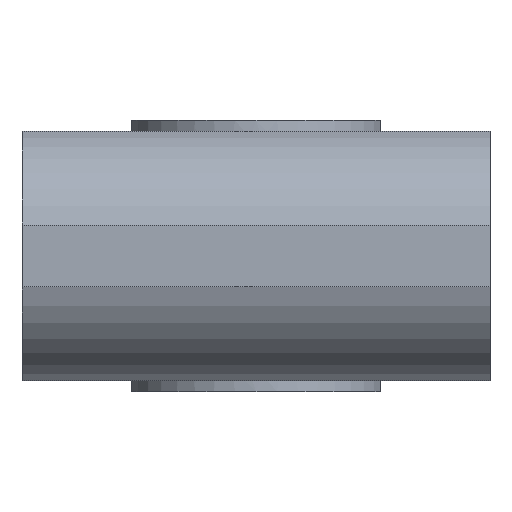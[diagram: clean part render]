
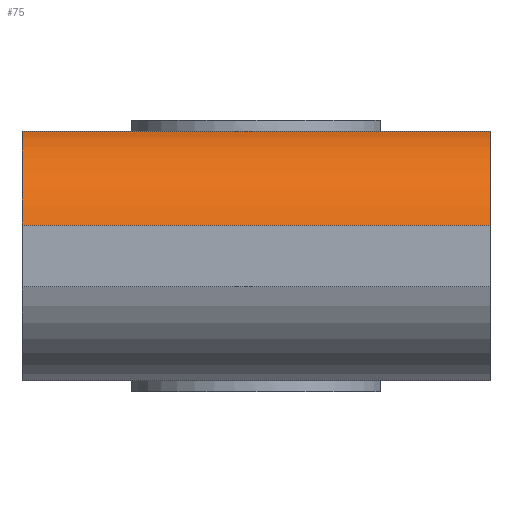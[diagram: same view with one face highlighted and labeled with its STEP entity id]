
A CAD part, front view. The second image highlights one B-rep face of the part: STEP entity #75.
In plain terms, the highlighted cylindrical face has radius 17 mm (diameter 34 mm), a partial arc.
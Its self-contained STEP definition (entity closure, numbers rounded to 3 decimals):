
#75 = ADVANCED_FACE ( 'NONE', ( #930 ), #852, .T. ) ;
#109 = VERTEX_POINT ( 'NONE', #1015 ) ;
#142 = EDGE_CURVE ( 'NONE', #629, #985, #166, .T. ) ;
#146 = ORIENTED_EDGE ( 'NONE', *, *, #496, .F. ) ;
#164 = CARTESIAN_POINT ( 'NONE',  ( 31., -34., 0. ) ) ;
#166 = LINE ( 'NONE', #1122, #749 ) ;
#176 = LINE ( 'NONE', #279, #768 ) ;
#180 = DIRECTION ( 'NONE',  ( 1., 0., 0. ) ) ;
#221 = ORIENTED_EDGE ( 'NONE', *, *, #259, .T. ) ;
#245 = ORIENTED_EDGE ( 'NONE', *, *, #904, .T. ) ;
#259 = EDGE_CURVE ( 'NONE', #109, #682, #176, .T. ) ;
#279 = CARTESIAN_POINT ( 'NONE',  ( 31., -50.5, 4.093 ) ) ;
#304 = AXIS2_PLACEMENT_3D ( 'NONE', #733, #651, #999 ) ;
#329 = DIRECTION ( 'NONE',  ( -1., 0., 0. ) ) ;
#338 = DIRECTION ( 'NONE',  ( -1., 0., 0. ) ) ;
#496 = EDGE_CURVE ( 'NONE', #629, #682, #675, .T. ) ;
#587 = CARTESIAN_POINT ( 'NONE',  ( 31., -38.093, 16.5 ) ) ;
#607 = AXIS2_PLACEMENT_3D ( 'NONE', #164, #329, #924 ) ;
#629 = VERTEX_POINT ( 'NONE', #587 ) ;
#630 = EDGE_LOOP ( 'NONE', ( #146, #1018, #245, #221 ) ) ;
#651 = DIRECTION ( 'NONE',  ( 1., 0., 0. ) ) ;
#654 = CARTESIAN_POINT ( 'NONE',  ( -31., -34., 0. ) ) ;
#675 = CIRCLE ( 'NONE', #304, 17. ) ;
#678 = AXIS2_PLACEMENT_3D ( 'NONE', #654, #1103, #1109 ) ;
#682 = VERTEX_POINT ( 'NONE', #1061 ) ;
#733 = CARTESIAN_POINT ( 'NONE',  ( 31., -34., 0. ) ) ;
#749 = VECTOR ( 'NONE', #338, 1000. ) ;
#768 = VECTOR ( 'NONE', #180, 1000. ) ;
#806 = CIRCLE ( 'NONE', #678, 17. ) ;
#822 = CARTESIAN_POINT ( 'NONE',  ( -31., -38.093, 16.5 ) ) ;
#852 = CYLINDRICAL_SURFACE ( 'NONE', #607, 17. ) ;
#904 = EDGE_CURVE ( 'NONE', #985, #109, #806, .T. ) ;
#924 = DIRECTION ( 'NONE',  ( 0., 0., 1. ) ) ;
#930 = FACE_OUTER_BOUND ( 'NONE', #630, .T. ) ;
#985 = VERTEX_POINT ( 'NONE', #822 ) ;
#999 = DIRECTION ( 'NONE',  ( 0., 0., -1. ) ) ;
#1015 = CARTESIAN_POINT ( 'NONE',  ( -31., -50.5, 4.093 ) ) ;
#1018 = ORIENTED_EDGE ( 'NONE', *, *, #142, .T. ) ;
#1061 = CARTESIAN_POINT ( 'NONE',  ( 31., -50.5, 4.093 ) ) ;
#1103 = DIRECTION ( 'NONE',  ( 1., 0., 0. ) ) ;
#1109 = DIRECTION ( 'NONE',  ( 0., 0., -1. ) ) ;
#1122 = CARTESIAN_POINT ( 'NONE',  ( 31., -38.093, 16.5 ) ) ;
